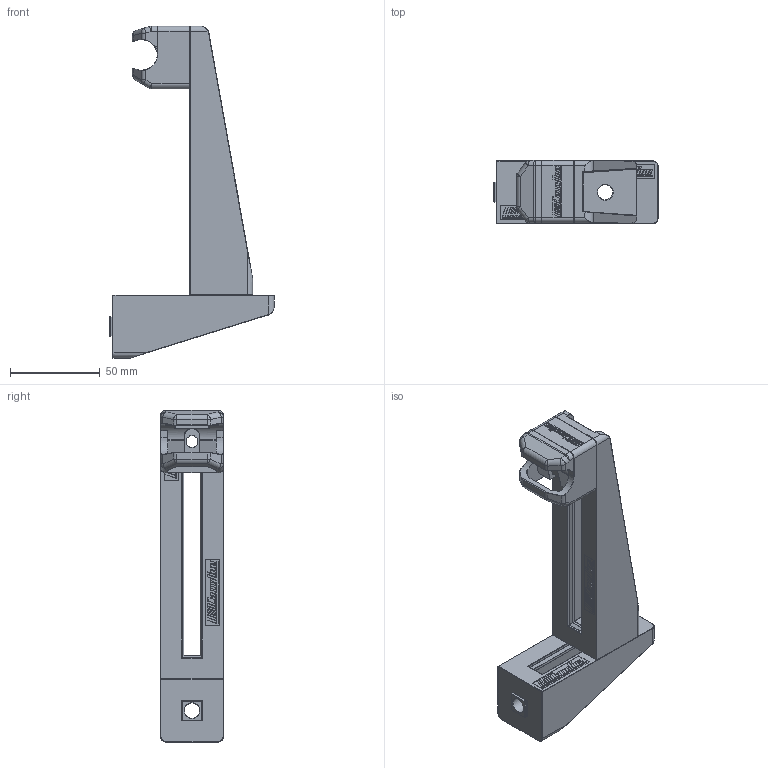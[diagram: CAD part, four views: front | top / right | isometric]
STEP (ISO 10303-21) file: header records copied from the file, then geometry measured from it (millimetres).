
FILE_DESCRIPTION(/* description */ (''),/* implementation_level */ '2;1');
FILE_NAME(/* name */ '\\carryline.intra\privat\users\mathias\Desktop\Tillfälliga filer\300-0820.stp',/* time_stamp */ '2018-11-30T08:02:27+01:00',/* author */ ('PL'),/* organization */ (''),/* preprocessor_version */ 'ST-DEVELOPER v17',/* originating_system */ 'Autodesk Inventor 2018',/* authorisation */ '');
FILE_SCHEMA (('AUTOMOTIVE_DESIGN { 1 0 10303 214 3 1 1 }'));
Length unit declared in the file: millimetre
Products named in the file (4): 300-0820; 300-1000; 300-2150; 300-2090
Assembly tree (3 placements, depth 2):
  300-0820
    300-1000
    300-2150
    300-2090
Bounding box: 91.5 x 35 x 185.1 mm (x, y, z)
Volume: 112186.3 mm3; surface area: 51701.5 mm2
Topology: 5 solids, 5 shells, 1282 faces, 3110 edges, 1840 vertices
Faces by surface type: plane 773, cylinder 286, bspline 94, sphere 68, torus 61
Full cylindrical faces by diameter (mm): 6.647 x1, 8.5 x2, 9 x1
Entity records: 39066 total; most frequent: CARTESIAN_POINT 8993, DIRECTION 6049, ORIENTED_EDGE 6028, EDGE_CURVE 3014, LINE 2245, VECTOR 2245, AXIS2_PLACEMENT_3D 1902, VERTEX_POINT 1840
